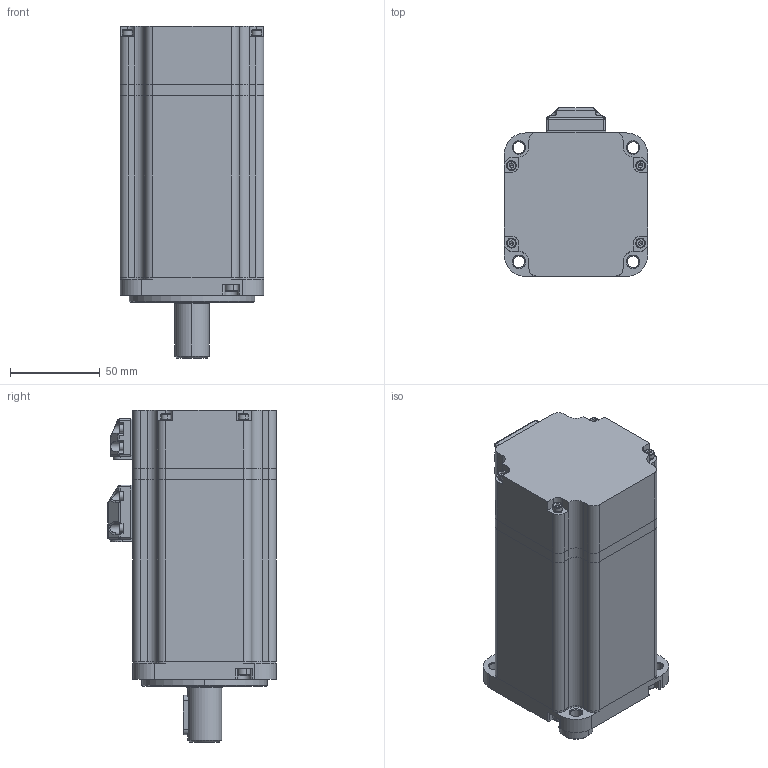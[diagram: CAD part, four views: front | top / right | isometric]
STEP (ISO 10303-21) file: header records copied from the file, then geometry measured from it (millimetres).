
FILE_DESCRIPTION (( 'STEP AP203' ), '1' );
FILE_NAME ('307012114-SMH080-07530210A2BL.STEP', '2021-11-08T11:42:08', ( '' ), ( '' ), 'SwSTEP 2.0', 'SolidWorks 2018', '' );
FILE_SCHEMA (( 'CONFIG_CONTROL_DESIGN' ));
Products named in the file (1): 307012114-SMH080-07530210A2BL
Bounding box: 80 x 94 x 185 mm (x, y, z)
Volume: 413033.2 mm3; surface area: 229252 mm2
Topology: 64 solids, 64 shells, 2656 faces, 7083 edges, 4480 vertices
Faces by surface type: cylinder 1087, plane 862, torus 219, sphere 194, cone 156, bspline 138
Entity records: 89075 total; most frequent: CARTESIAN_POINT 23450, DIRECTION 13941, ORIENTED_EDGE 13738, EDGE_CURVE 6869, AXIS2_PLACEMENT_3D 5526, VERTEX_POINT 4430, CIRCLE 3007, EDGE_LOOP 2983
